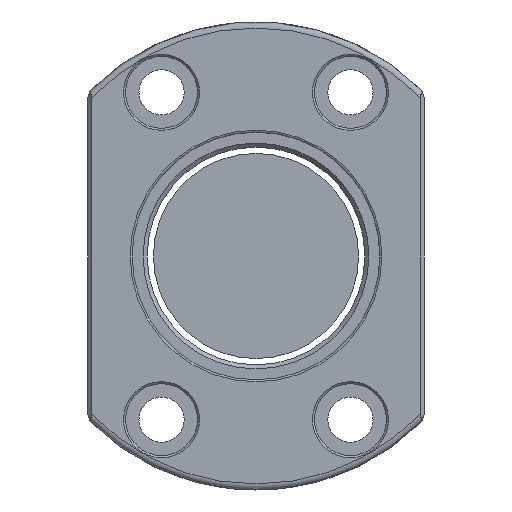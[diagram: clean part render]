
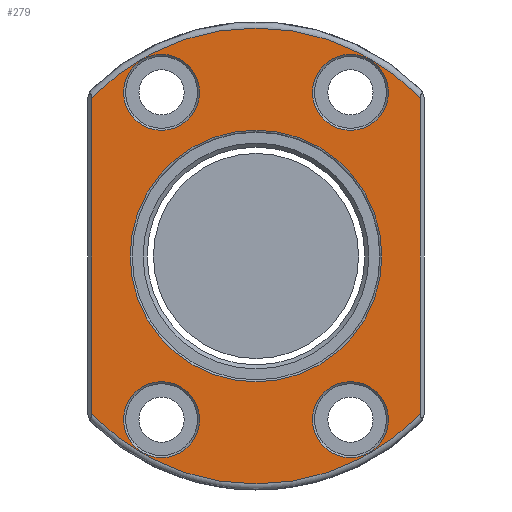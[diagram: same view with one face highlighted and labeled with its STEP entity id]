
A CAD part, front view. The second image highlights one B-rep face of the part: STEP entity #279.
In plain terms, the highlighted planar face has unit normal (0, -1, 0).
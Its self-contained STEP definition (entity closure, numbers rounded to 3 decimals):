
#57=LINE('',#1695,#97);
#58=LINE('',#1699,#98);
#97=VECTOR('',#1392,1.);
#98=VECTOR('',#1395,1.);
#203=PLANE('',#1167);
#279=ADVANCED_FACE('',(#382,#383,#384,#385,#386,#387),#203,.T.);
#382=FACE_BOUND('',#494,.T.);
#383=FACE_BOUND('',#495,.T.);
#384=FACE_BOUND('',#496,.T.);
#385=FACE_BOUND('',#497,.T.);
#386=FACE_BOUND('',#498,.T.);
#387=FACE_BOUND('',#499,.T.);
#494=EDGE_LOOP('',(#661));
#495=EDGE_LOOP('',(#662));
#496=EDGE_LOOP('',(#663));
#497=EDGE_LOOP('',(#664));
#498=EDGE_LOOP('',(#665));
#499=EDGE_LOOP('',(#666,#667,#668,#669));
#661=ORIENTED_EDGE('',*,*,#962,.T.);
#662=ORIENTED_EDGE('',*,*,#963,.T.);
#663=ORIENTED_EDGE('',*,*,#964,.T.);
#664=ORIENTED_EDGE('',*,*,#965,.T.);
#665=ORIENTED_EDGE('',*,*,#966,.T.);
#666=ORIENTED_EDGE('',*,*,#967,.T.);
#667=ORIENTED_EDGE('',*,*,#968,.T.);
#668=ORIENTED_EDGE('',*,*,#969,.T.);
#669=ORIENTED_EDGE('',*,*,#970,.T.);
#857=VERTEX_POINT('',#1683);
#858=VERTEX_POINT('',#1685);
#859=VERTEX_POINT('',#1687);
#860=VERTEX_POINT('',#1689);
#861=VERTEX_POINT('',#1691);
#862=VERTEX_POINT('',#1693);
#863=VERTEX_POINT('',#1694);
#864=VERTEX_POINT('',#1696);
#865=VERTEX_POINT('',#1698);
#962=EDGE_CURVE('',#857,#857,#1065,.T.);
#963=EDGE_CURVE('',#858,#858,#1066,.T.);
#964=EDGE_CURVE('',#859,#859,#1067,.T.);
#965=EDGE_CURVE('',#860,#860,#1068,.T.);
#966=EDGE_CURVE('',#861,#861,#1069,.T.);
#967=EDGE_CURVE('',#862,#863,#1070,.T.);
#968=EDGE_CURVE('',#863,#864,#57,.T.);
#969=EDGE_CURVE('',#864,#865,#1071,.T.);
#970=EDGE_CURVE('',#865,#862,#58,.T.);
#1065=CIRCLE('',#1160,30.65);
#1066=CIRCLE('',#1161,9.25);
#1067=CIRCLE('',#1162,9.25);
#1068=CIRCLE('',#1163,9.25);
#1069=CIRCLE('',#1164,9.25);
#1070=CIRCLE('',#1165,55.5);
#1071=CIRCLE('',#1166,55.5);
#1160=AXIS2_PLACEMENT_3D('',#1682,#1380,#1381);
#1161=AXIS2_PLACEMENT_3D('',#1684,#1382,#1383);
#1162=AXIS2_PLACEMENT_3D('',#1686,#1384,#1385);
#1163=AXIS2_PLACEMENT_3D('',#1688,#1386,#1387);
#1164=AXIS2_PLACEMENT_3D('',#1690,#1388,#1389);
#1165=AXIS2_PLACEMENT_3D('',#1692,#1390,#1391);
#1166=AXIS2_PLACEMENT_3D('',#1697,#1393,#1394);
#1167=AXIS2_PLACEMENT_3D('',#1700,#1396,#1397);
#1380=DIRECTION('',(0.,1.,0.));
#1381=DIRECTION('',(0.,0.,-1.));
#1382=DIRECTION('',(0.,1.,0.));
#1383=DIRECTION('',(0.,0.,-1.));
#1384=DIRECTION('',(0.,1.,0.));
#1385=DIRECTION('',(0.,0.,-1.));
#1386=DIRECTION('',(0.,1.,0.));
#1387=DIRECTION('',(0.,0.,-1.));
#1388=DIRECTION('',(0.,1.,0.));
#1389=DIRECTION('',(0.,0.,-1.));
#1390=DIRECTION('',(0.,-1.,0.));
#1391=DIRECTION('',(0.,0.,-1.));
#1392=DIRECTION('',(0.,0.,-1.));
#1393=DIRECTION('',(0.,-1.,0.));
#1394=DIRECTION('',(0.,0.,-1.));
#1395=DIRECTION('',(0.,0.,1.));
#1396=DIRECTION('',(0.,-1.,0.));
#1397=DIRECTION('',(0.,0.,-1.));
#1682=CARTESIAN_POINT('',(0.,0.,0.));
#1683=CARTESIAN_POINT('',(0.,0.,-30.65));
#1684=CARTESIAN_POINT('',(-23.,0.,39.837));
#1685=CARTESIAN_POINT('',(-23.,0.,30.587));
#1686=CARTESIAN_POINT('',(23.,0.,39.837));
#1687=CARTESIAN_POINT('',(23.,0.,30.587));
#1688=CARTESIAN_POINT('',(-23.,0.,-39.837));
#1689=CARTESIAN_POINT('',(-23.,0.,-49.087));
#1690=CARTESIAN_POINT('',(23.,0.,-39.837));
#1691=CARTESIAN_POINT('',(23.,0.,-49.087));
#1692=CARTESIAN_POINT('',(0.,0.,0.));
#1693=CARTESIAN_POINT('',(40.,0.,38.474));
#1694=CARTESIAN_POINT('',(-40.,0.,38.474));
#1695=CARTESIAN_POINT('',(-40.,0.,-37.407));
#1696=CARTESIAN_POINT('',(-40.,0.,-38.474));
#1697=CARTESIAN_POINT('',(0.,0.,0.));
#1698=CARTESIAN_POINT('',(40.,0.,-38.474));
#1699=CARTESIAN_POINT('',(40.,0.,37.407));
#1700=CARTESIAN_POINT('',(0.,0.,0.));
